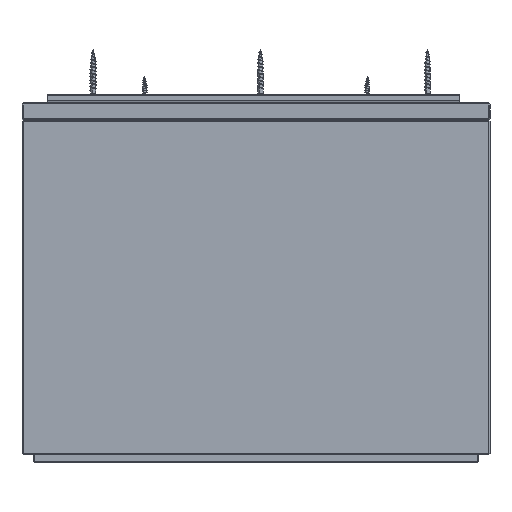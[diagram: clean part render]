
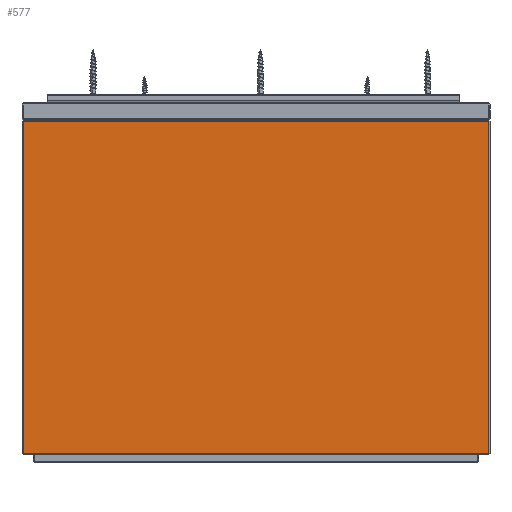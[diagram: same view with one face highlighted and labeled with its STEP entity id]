
A CAD part, top view. The second image highlights one B-rep face of the part: STEP entity #577.
In plain terms, the highlighted planar face has unit normal (0, 0, 1).
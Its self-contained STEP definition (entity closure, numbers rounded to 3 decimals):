
#577=ADVANCED_FACE('',(#1978),#23395,.T.);
#1978=FACE_OUTER_BOUND('',#3411,.T.);
#3411=EDGE_LOOP('',(#5275,#5276,#5277,#5278));
#5275=ORIENTED_EDGE('',*,*,#12741,.F.);
#5276=ORIENTED_EDGE('',*,*,#12742,.F.);
#5277=ORIENTED_EDGE('',*,*,#12743,.F.);
#5278=ORIENTED_EDGE('',*,*,#12740,.F.);
#12740=EDGE_CURVE('',#20361,#20362,#16437,.T.);
#12741=EDGE_CURVE('',#20363,#20361,#16438,.T.);
#12742=EDGE_CURVE('',#20364,#20363,#16439,.T.);
#12743=EDGE_CURVE('',#20362,#20364,#16440,.T.);
#16437=B_SPLINE_CURVE_WITH_KNOTS('',1,(#27199,#27200),.UNSPECIFIED.,.F.,
 .F.,(2,2),(-298.,0.),.UNSPECIFIED.);
#16438=B_SPLINE_CURVE_WITH_KNOTS('',1,(#27201,#27202),.UNSPECIFIED.,.F.,
 .F.,(2,2),(-418.,0.),.UNSPECIFIED.);
#16439=B_SPLINE_CURVE_WITH_KNOTS('',1,(#27203,#27204),.UNSPECIFIED.,.F.,
 .F.,(2,2),(-298.,0.),.UNSPECIFIED.);
#16440=B_SPLINE_CURVE_WITH_KNOTS('',1,(#27205,#27206),.UNSPECIFIED.,.F.,
 .F.,(2,2),(-418.,0.),.UNSPECIFIED.);
#20361=VERTEX_POINT('',#27147);
#20362=VERTEX_POINT('',#27148);
#20363=VERTEX_POINT('',#27149);
#20364=VERTEX_POINT('',#27150);
#23395=PLANE('',#24043);
#24043=AXIS2_PLACEMENT_3D('',#27101,#25154,$);
#25154=DIRECTION('',(0.,0.,1.));
#27101=CARTESIAN_POINT('',(-246.611,-203.269,829.003));
#27147=CARTESIAN_POINT('',(213.189,124.531,829.003));
#27148=CARTESIAN_POINT('',(213.189,-173.469,829.003));
#27149=CARTESIAN_POINT('',(-204.811,124.531,829.003));
#27150=CARTESIAN_POINT('',(-204.811,-173.469,829.003));
#27199=CARTESIAN_POINT('',(213.189,124.531,829.003));
#27200=CARTESIAN_POINT('',(213.189,-173.469,829.003));
#27201=CARTESIAN_POINT('',(-204.811,124.531,829.003));
#27202=CARTESIAN_POINT('',(213.189,124.531,829.003));
#27203=CARTESIAN_POINT('',(-204.811,-173.469,829.003));
#27204=CARTESIAN_POINT('',(-204.811,124.531,829.003));
#27205=CARTESIAN_POINT('',(213.189,-173.469,829.003));
#27206=CARTESIAN_POINT('',(-204.811,-173.469,829.003));
